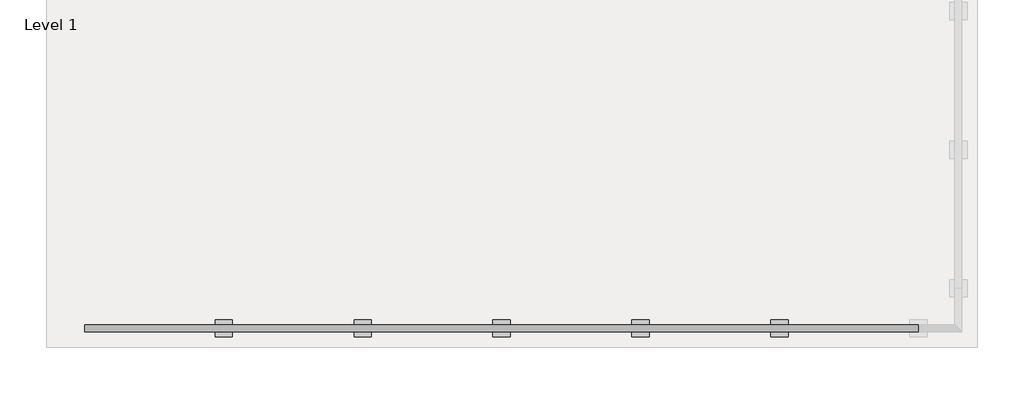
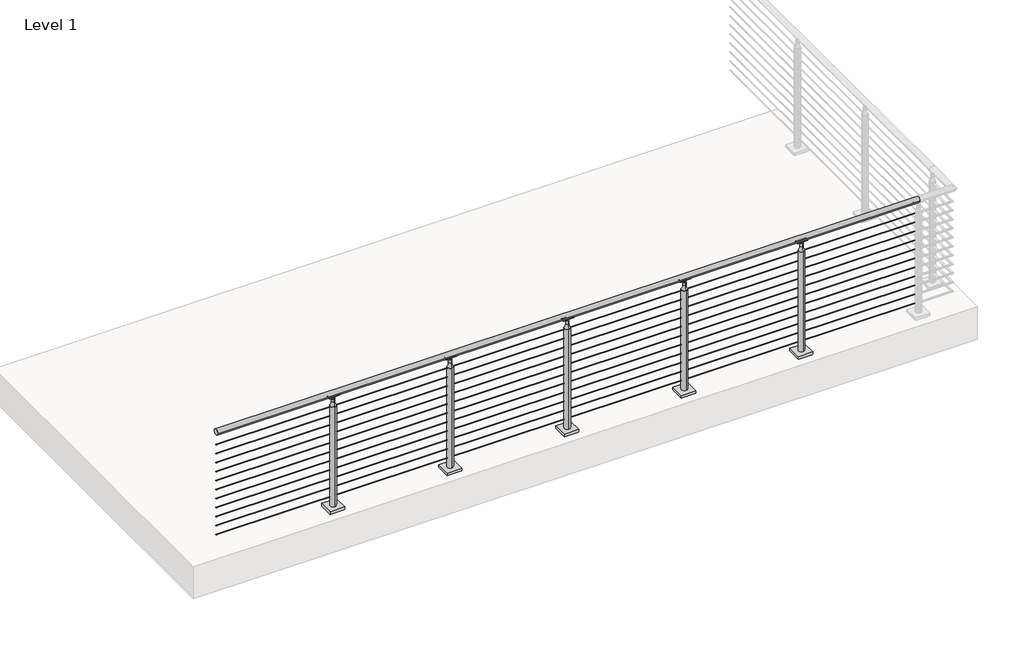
# One storey, part 10 of 21: 1 railing.
"""IFC4 building model written with IfcOpenShell, lengths in millimetres."""

from ifc_helpers import new_model, si_unit, point, frame, frame_2d, origin, origin_with_axes, place, context, project, spatial, polyline, circle_curve, ellipse_curve, trimmed, segment, composite_curve, outline, extrude, element, save
from ifc_brep_helpers import plane_surface, cylinder_surface, revolved_surface, advanced_brep

model = new_model("IFC4")

# Units and contexts
model_context = context("Model", 3, world=origin())
ifc_project = project(units=[si_unit("LENGTHUNIT", "METRE", prefix="MILLI")], contexts=[model_context])

# Site, building, storey
site = spatial("IfcSite", under=ifc_project)
building = spatial("IfcBuilding", under=site)
storey = spatial("IfcBuildingStorey", under=building, Name="Level 1", Elevation=0.0)

# Railing
placement = place(None, origin())
element("IfcRailing", 1, ObjectType="VIVA-CIRCA-Cable-Floor Mount-Straight", at=placement, inside=storey, context=model_context, shape_type="SolidModel", body=[
    extrude(outline(composite_curve([segment(trimmed(circle_curve(frame_2d((-57044.7334719, 1054.1)), 25.4), [point((-57070.1334719, 1054.1))], [point((-57019.3334719, 1054.1))], False, "CARTESIAN"), True, "CONTINUOUS"), segment(trimmed(circle_curve(frame_2d((-57044.7334719, 1054.1)), 25.4), [point((-57019.3334719, 1054.1))], [point((-57070.1334719, 1054.1))], False, "CARTESIAN"), True, "CONTINUOUS")], self_intersect=False)), frame((13215.7855247, 0.0, 0.0), z_axis=(1.0, 0.0, 0.0), x_axis=(0.0, 1.0, 0.0)), (0.0, 0.0, 1.0), 6096.0),
    extrude(outline(composite_curve([segment(trimmed(circle_curve(frame_2d((-57044.7334719, 937.4124)), 2.3876), [point((-57042.3458719, 937.4124))], [point((-57047.1210719, 937.4124))], False, "CARTESIAN"), True, "CONTINUOUS"), segment(trimmed(circle_curve(frame_2d((-57044.7334719, 937.4124)), 2.3876), [point((-57047.1210719, 937.4124))], [point((-57042.3458719, 937.4124))], False, "CARTESIAN"), True, "CONTINUOUS")], self_intersect=False)), frame((13215.7855247, 0.0, 0.0), z_axis=(1.0, 0.0, 0.0), x_axis=(0.0, 1.0, 0.0)), (0.0, 0.0, 1.0), 6096.0),
    extrude(outline(composite_curve([segment(trimmed(circle_curve(frame_2d((-57044.7334719, 854.8624)), 2.3876), [point((-57042.3458719, 854.8624))], [point((-57047.1210719, 854.8624))], False, "CARTESIAN"), True, "CONTINUOUS"), segment(trimmed(circle_curve(frame_2d((-57044.7334719, 854.8624)), 2.3876), [point((-57047.1210719, 854.8624))], [point((-57042.3458719, 854.8624))], False, "CARTESIAN"), True, "CONTINUOUS")], self_intersect=False)), frame((13215.7855247, 0.0, 0.0), z_axis=(1.0, 0.0, 0.0), x_axis=(0.0, 1.0, 0.0)), (0.0, 0.0, 1.0), 6096.0),
    extrude(outline(composite_curve([segment(trimmed(circle_curve(frame_2d((-57044.7334719, 772.3124)), 2.3876), [point((-57042.3458719, 772.3124))], [point((-57047.1210719, 772.3124))], False, "CARTESIAN"), True, "CONTINUOUS"), segment(trimmed(circle_curve(frame_2d((-57044.7334719, 772.3124)), 2.3876), [point((-57047.1210719, 772.3124))], [point((-57042.3458719, 772.3124))], False, "CARTESIAN"), True, "CONTINUOUS")], self_intersect=False)), frame((13215.7855247, 0.0, 0.0), z_axis=(1.0, 0.0, 0.0), x_axis=(0.0, 1.0, 0.0)), (0.0, 0.0, 1.0), 6096.0),
    extrude(outline(composite_curve([segment(trimmed(circle_curve(frame_2d((-57044.7334719, 689.7624)), 2.3876), [point((-57042.3458719, 689.7624))], [point((-57047.1210719, 689.7624))], False, "CARTESIAN"), True, "CONTINUOUS"), segment(trimmed(circle_curve(frame_2d((-57044.7334719, 689.7624)), 2.3876), [point((-57047.1210719, 689.7624))], [point((-57042.3458719, 689.7624))], False, "CARTESIAN"), True, "CONTINUOUS")], self_intersect=False)), frame((13215.7855247, 0.0, 0.0), z_axis=(1.0, 0.0, 0.0), x_axis=(0.0, 1.0, 0.0)), (0.0, 0.0, 1.0), 6096.0),
    extrude(outline(composite_curve([segment(trimmed(circle_curve(frame_2d((-57044.7334719, 607.2124)), 2.3876), [point((-57042.3458719, 607.2124))], [point((-57047.1210719, 607.2124))], False, "CARTESIAN"), True, "CONTINUOUS"), segment(trimmed(circle_curve(frame_2d((-57044.7334719, 607.2124)), 2.3876), [point((-57047.1210719, 607.2124))], [point((-57042.3458719, 607.2124))], False, "CARTESIAN"), True, "CONTINUOUS")], self_intersect=False)), frame((13215.7855247, 0.0, 0.0), z_axis=(1.0, 0.0, 0.0), x_axis=(0.0, 1.0, 0.0)), (0.0, 0.0, 1.0), 6096.0),
    extrude(outline(composite_curve([segment(trimmed(circle_curve(frame_2d((-57044.7334719, 524.6624)), 2.3876), [point((-57042.3458719, 524.6624))], [point((-57047.1210719, 524.6624))], False, "CARTESIAN"), True, "CONTINUOUS"), segment(trimmed(circle_curve(frame_2d((-57044.7334719, 524.6624)), 2.3876), [point((-57047.1210719, 524.6624))], [point((-57042.3458719, 524.6624))], False, "CARTESIAN"), True, "CONTINUOUS")], self_intersect=False)), frame((13215.7855247, 0.0, 0.0), z_axis=(1.0, 0.0, 0.0), x_axis=(0.0, 1.0, 0.0)), (0.0, 0.0, 1.0), 6096.0),
    extrude(outline(composite_curve([segment(trimmed(circle_curve(frame_2d((-57044.7334719, 442.1124)), 2.3876), [point((-57042.3458719, 442.1124))], [point((-57047.1210719, 442.1124))], False, "CARTESIAN"), True, "CONTINUOUS"), segment(trimmed(circle_curve(frame_2d((-57044.7334719, 442.1124)), 2.3876), [point((-57047.1210719, 442.1124))], [point((-57042.3458719, 442.1124))], False, "CARTESIAN"), True, "CONTINUOUS")], self_intersect=False)), frame((13215.7855247, 0.0, 0.0), z_axis=(1.0, 0.0, 0.0), x_axis=(0.0, 1.0, 0.0)), (0.0, 0.0, 1.0), 6096.0),
    extrude(outline(composite_curve([segment(trimmed(circle_curve(frame_2d((-57044.7334719, 359.5624)), 2.3876), [point((-57042.3458719, 359.5624))], [point((-57047.1210719, 359.5624))], False, "CARTESIAN"), True, "CONTINUOUS"), segment(trimmed(circle_curve(frame_2d((-57044.7334719, 359.5624)), 2.3876), [point((-57047.1210719, 359.5624))], [point((-57042.3458719, 359.5624))], False, "CARTESIAN"), True, "CONTINUOUS")], self_intersect=False)), frame((13215.7855247, 0.0, 0.0), z_axis=(1.0, 0.0, 0.0), x_axis=(0.0, 1.0, 0.0)), (0.0, 0.0, 1.0), 6096.0),
    extrude(outline(composite_curve([segment(trimmed(circle_curve(frame_2d((-57044.7334719, 277.0124)), 2.3876), [point((-57042.3458719, 277.0124))], [point((-57047.1210719, 277.0124))], False, "CARTESIAN"), True, "CONTINUOUS"), segment(trimmed(circle_curve(frame_2d((-57044.7334719, 277.0124)), 2.3876), [point((-57047.1210719, 277.0124))], [point((-57042.3458719, 277.0124))], False, "CARTESIAN"), True, "CONTINUOUS")], self_intersect=False)), frame((13215.7855247, 0.0, 0.0), z_axis=(1.0, 0.0, 0.0), x_axis=(0.0, 1.0, 0.0)), (0.0, 0.0, 1.0), 6096.0),
    extrude(outline(composite_curve([segment(trimmed(circle_curve(frame_2d((-57044.7334719, 194.4624)), 2.3876), [point((-57042.3458719, 194.4624))], [point((-57047.1210719, 194.4624))], False, "CARTESIAN"), True, "CONTINUOUS"), segment(trimmed(circle_curve(frame_2d((-57044.7334719, 194.4624)), 2.3876), [point((-57047.1210719, 194.4624))], [point((-57042.3458719, 194.4624))], False, "CARTESIAN"), True, "CONTINUOUS")], self_intersect=False)), frame((13215.7855247, 0.0, 0.0), z_axis=(1.0, 0.0, 0.0), x_axis=(0.0, 1.0, 0.0)), (0.0, 0.0, 1.0), 6096.0),
    extrude(outline(composite_curve([segment(trimmed(circle_curve(frame_2d((-57044.7334719, 111.9124)), 2.3876), [point((-57042.3458719, 111.9124))], [point((-57047.1210719, 111.9124))], False, "CARTESIAN"), True, "CONTINUOUS"), segment(trimmed(circle_curve(frame_2d((-57044.7334719, 111.9124)), 2.3876), [point((-57047.1210719, 111.9124))], [point((-57042.3458719, 111.9124))], False, "CARTESIAN"), True, "CONTINUOUS")], self_intersect=False)), frame((13215.7855247, 0.0, 0.0), z_axis=(1.0, 0.0, 0.0), x_axis=(0.0, 1.0, 0.0)), (0.0, 0.0, 1.0), 6096.0),
    extrude(outline(composite_curve([segment(trimmed(circle_curve(frame_2d((-57044.6367435, 1055.4254922)), 25.4345159), [point((-57057.2005464, 1033.3106679))], [point((-57032.2415097, 1033.2157471))], True, "CARTESIAN"), True, "CONTINUOUS"), segment(trimmed(circle_curve(frame_2d((-57030.9968566, 1030.7132623)), 2.7949225), [point((-57032.2415097, 1033.2157471))], [point((-57029.5195515, 1028.3406769))], False, "CARTESIAN"), True, "CONTINUOUS"), segment(trimmed(circle_curve(frame_2d((-57044.7702066, 1056.1881188)), 31.75), [point((-57029.5195515, 1028.3406769))], [point((-57061.0364438, 1028.9214354))], False, "CARTESIAN"), True, "CONTINUOUS"), segment(trimmed(circle_curve(frame_2d((-57058.748104, 1030.7923545)), 2.9558141), [point((-57061.0364438, 1028.9214354))], [point((-57057.2005464, 1033.3106679))], False, "CARTESIAN"), True, "CONTINUOUS")], self_intersect=False)), frame((18250.9449997, 0.0, 0.0), z_axis=(1.0, 0.0, 0.0), x_axis=(0.0, 1.0, 0.0)), (0.0, 0.0, 1.0), 90.4748),
    extrude(outline(composite_curve([segment(polyline([(1024.6506908, 18323.2503146), (1024.6506908, 18269.1144848)]), True, "CONTINUOUS"), segment(trimmed(circle_curve(frame_2d((1010.282776, 18269.1144848)), 14.3679149), [point((1024.6506908, 18269.1144848))], [point((1010.282776, 18283.4823997))], True, "CARTESIAN"), True, "CONTINUOUS"), segment(trimmed(circle_curve(frame_2d((1010.282776, 18296.1823997)), 12.7), [point((1010.282776, 18283.4823997))], [point((1010.282776, 18308.8823997))], False, "CARTESIAN"), True, "CONTINUOUS"), segment(trimmed(circle_curve(frame_2d((1010.282776, 18323.2503146)), 14.3679149), [point((1010.282776, 18308.8823997))], [point((1024.6506908, 18323.2503146))], True, "CARTESIAN"), True, "CONTINUOUS")], self_intersect=False)), frame((0.0, -57047.2734719, 0.0), z_axis=(0.0, 1.0, 0.0), x_axis=(0.0, 0.0, 1.0)), (0.0, 0.0, 1.0), 5.08),
    extrude(outline(polyline([(18232.6823997, -57108.2334719), (18232.6823997, -56981.2334719), (18359.6823997, -56981.2334719), (18359.6823997, -57108.2334719), (18232.6823997, -57108.2334719)])), origin_with_axes(), (0.0, 0.0, 1.0), 25.4),
    advanced_brep(
    [(18296.1823997, -57070.1328697, 941.1347854), (18296.1823997, -57019.3340741, 941.1347854), (18296.1823997, -57019.3340741, 25.4), (18296.1823997, -57070.1328697, 25.4), (18296.1823997, -57057.4714404, 979.3486202), (18296.1823997, -57031.9955033, 979.3486202), (18296.1823997, -57057.4714404, 1008.5779599), (18296.1823997, -57031.9955033, 1008.5779599), (18296.1823997, -57044.7334719, 1015.238668), (18296.1823997, -57044.7334719, 25.4)],
    [
        (0, 1, circle_curve(frame((18296.1823997, -57044.7334719, 941.1347854), z_axis=(0.0, 0.0, -1.0), x_axis=(0.0, 1.0, 0.0)), 25.3993978)),
        (1, 2),
        (2, 3, circle_curve(frame((18296.1823997, -57044.7334719, 25.4), z_axis=(0.0, 0.0, 1.0), x_axis=(0.0, 1.0, 0.0)), 25.3993978)),
        (3, 0),
        (1, 0, circle_curve(frame((18296.1823997, -57044.7334719, 941.1347854), z_axis=(0.0, 0.0, -1.0), x_axis=(0.0, 1.0, 0.0)), 25.3993978)),
        (3, 2, circle_curve(frame((18296.1823997, -57044.7334719, 25.4), z_axis=(0.0, 0.0, 1.0), x_axis=(0.0, 1.0, 0.0)), 25.3993978)),
        (4, 5, circle_curve(frame((18296.1823997, -57044.7334719, 979.3486202), z_axis=(0.0, 0.0, -1.0), x_axis=(0.0, 1.0, 0.0)), 12.7379685)),
        (5, 1, circle_curve(frame((18296.1823997, -56967.997635, 979.3486202), z_axis=(1.0, 0.0, 0.0), x_axis=(0.0, 1.0, 0.0)), 63.9978683)),
        (0, 4, circle_curve(frame((18296.1823997, -57121.4693087, 979.3486202), z_axis=(1.0, 0.0, 0.0), x_axis=(0.0, -1.0, 0.0)), 63.9978683)),
        (5, 4, circle_curve(frame((18296.1823997, -57044.7334719, 979.3486202), z_axis=(0.0, 0.0, -1.0), x_axis=(0.0, 1.0, 0.0)), 12.7379685)),
        (6, 7, circle_curve(frame((18296.1823997, -57044.7334719, 1008.5779599), z_axis=(0.0, 0.0, -1.0), x_axis=(0.0, 1.0, 0.0)), 12.7379685)),
        (7, 5),
        (4, 6),
        (7, 6, circle_curve(frame((18296.1823997, -57044.7334719, 1008.5779599), z_axis=(0.0, 0.0, -1.0), x_axis=(0.0, 1.0, 0.0)), 12.7379685)),
        (8, 7, circle_curve(frame((18296.1823997, -57044.7334719, 999.7282394), z_axis=(-1.0, 0.0, 0.0), x_axis=(0.0, 1.0, 0.0)), 15.5104286)),
        (6, 8, circle_curve(frame((18296.1823997, -57044.7334719, 999.7282394), z_axis=(-1.0, 0.0, 0.0), x_axis=(0.0, -1.0, 0.0)), 15.5104286)),
        (2, 9),
        (9, 3),
    ],
    [
        cylinder_surface(frame((18296.1823997, -57044.7334719, 1104.9), z_axis=(0.0, 0.0, 1.0), x_axis=(0.0, 1.0, 0.0)), 25.3993978),
        revolved_surface(trimmed(ellipse_curve(frame((18296.1823997, -56967.997635, 979.3486202), z_axis=(-1.0, 0.0, 0.0), x_axis=(0.0, 1.0, 0.0)), 63.9978683, 63.9978683), [point((18296.1823997, -57019.3340741, 941.1347854))], [point((18296.1823997, -57031.9955033, 979.3486202))], True, "CARTESIAN"), (18296.1823997, -57044.7334719, 1104.9), (0.0, 0.0, 1.0)),
        cylinder_surface(frame((18296.1823997, -57044.7334719, 1104.9), z_axis=(0.0, 0.0, 1.0), x_axis=(0.0, 1.0, 0.0)), 12.7379685),
        revolved_surface(trimmed(ellipse_curve(frame((18296.1823997, -57044.7334719, 999.7282394), z_axis=(1.0, 0.0, 0.0), x_axis=(0.0, 1.0, 0.0)), 15.5104286, 15.5104286), [point((18296.1823997, -57031.9955033, 1008.5779599))], [point((18296.1823997, -57044.7334719, 1015.238668))], True, "CARTESIAN"), (18296.1823997, -57044.7334719, 1104.9), (0.0, 0.0, 1.0)),
        plane_surface(frame((18296.1823997, -57044.7334719, 25.4), z_axis=(0.0, 0.0, -1.0), x_axis=(0.0, 1.0, 0.0))),
    ],
    [
        (0, [[1, 2, 3, 4]]),
        (0, [[5, -4, 6, -2]]),
        (1, [[7, 8, -1, 9]]),
        (1, [[10, -9, -5, -8]]),
        (2, [[11, 12, -7, 13]]),
        (2, [[14, -13, -10, -12]]),
        (3, [[15, -11, 16]]),
        (3, [[-16, -14, -15]]),
        (4, [[-3, 17, 18]]),
        (4, [[-6, -18, -17]]),
    ],
),
    extrude(outline(composite_curve([segment(trimmed(circle_curve(frame_2d((-57044.6367435, 1055.4254922)), 25.4345159), [point((-57057.2005464, 1033.3106679))], [point((-57032.2415097, 1033.2157471))], True, "CARTESIAN"), True, "CONTINUOUS"), segment(trimmed(circle_curve(frame_2d((-57030.9968566, 1030.7132623)), 2.7949225), [point((-57032.2415097, 1033.2157471))], [point((-57029.5195515, 1028.3406769))], False, "CARTESIAN"), True, "CONTINUOUS"), segment(trimmed(circle_curve(frame_2d((-57044.7702066, 1056.1881188)), 31.75), [point((-57029.5195515, 1028.3406769))], [point((-57061.0364438, 1028.9214354))], False, "CARTESIAN"), True, "CONTINUOUS"), segment(trimmed(circle_curve(frame_2d((-57058.748104, 1030.7923545)), 2.9558141), [point((-57061.0364438, 1028.9214354))], [point((-57057.2005464, 1033.3106679))], False, "CARTESIAN"), True, "CONTINUOUS")], self_intersect=False)), frame((17234.9449997, 0.0, 0.0), z_axis=(1.0, 0.0, 0.0), x_axis=(0.0, 1.0, 0.0)), (0.0, 0.0, 1.0), 90.4748),
    extrude(outline(composite_curve([segment(polyline([(1024.6506908, 17307.2503146), (1024.6506908, 17253.1144848)]), True, "CONTINUOUS"), segment(trimmed(circle_curve(frame_2d((1010.282776, 17253.1144848)), 14.3679149), [point((1024.6506908, 17253.1144848))], [point((1010.282776, 17267.4823997))], True, "CARTESIAN"), True, "CONTINUOUS"), segment(trimmed(circle_curve(frame_2d((1010.282776, 17280.1823997)), 12.7), [point((1010.282776, 17267.4823997))], [point((1010.282776, 17292.8823997))], False, "CARTESIAN"), True, "CONTINUOUS"), segment(trimmed(circle_curve(frame_2d((1010.282776, 17307.2503146)), 14.3679149), [point((1010.282776, 17292.8823997))], [point((1024.6506908, 17307.2503146))], True, "CARTESIAN"), True, "CONTINUOUS")], self_intersect=False)), frame((0.0, -57047.2734719, 0.0), z_axis=(0.0, 1.0, 0.0), x_axis=(0.0, 0.0, 1.0)), (0.0, 0.0, 1.0), 5.08),
    extrude(outline(polyline([(17216.6823997, -57108.2334719), (17216.6823997, -56981.2334719), (17343.6823997, -56981.2334719), (17343.6823997, -57108.2334719), (17216.6823997, -57108.2334719)])), origin_with_axes(), (0.0, 0.0, 1.0), 25.4),
    advanced_brep(
    [(17280.1823997, -57070.1328697, 941.1347854), (17280.1823997, -57019.3340741, 941.1347854), (17280.1823997, -57019.3340741, 25.4), (17280.1823997, -57070.1328697, 25.4), (17280.1823997, -57057.4714404, 979.3486202), (17280.1823997, -57031.9955033, 979.3486202), (17280.1823997, -57057.4714404, 1008.5779599), (17280.1823997, -57031.9955033, 1008.5779599), (17280.1823997, -57044.7334719, 1015.238668), (17280.1823997, -57044.7334719, 25.4)],
    [
        (0, 1, circle_curve(frame((17280.1823997, -57044.7334719, 941.1347854), z_axis=(0.0, 0.0, -1.0), x_axis=(0.0, 1.0, 0.0)), 25.3993978)),
        (1, 2),
        (2, 3, circle_curve(frame((17280.1823997, -57044.7334719, 25.4), z_axis=(0.0, 0.0, 1.0), x_axis=(0.0, 1.0, 0.0)), 25.3993978)),
        (3, 0),
        (1, 0, circle_curve(frame((17280.1823997, -57044.7334719, 941.1347854), z_axis=(0.0, 0.0, -1.0), x_axis=(0.0, 1.0, 0.0)), 25.3993978)),
        (3, 2, circle_curve(frame((17280.1823997, -57044.7334719, 25.4), z_axis=(0.0, 0.0, 1.0), x_axis=(0.0, 1.0, 0.0)), 25.3993978)),
        (4, 5, circle_curve(frame((17280.1823997, -57044.7334719, 979.3486202), z_axis=(0.0, 0.0, -1.0), x_axis=(0.0, 1.0, 0.0)), 12.7379685)),
        (5, 1, circle_curve(frame((17280.1823997, -56967.997635, 979.3486202), z_axis=(1.0, 0.0, 0.0), x_axis=(0.0, 1.0, 0.0)), 63.9978683)),
        (0, 4, circle_curve(frame((17280.1823997, -57121.4693087, 979.3486202), z_axis=(1.0, 0.0, 0.0), x_axis=(0.0, -1.0, 0.0)), 63.9978683)),
        (5, 4, circle_curve(frame((17280.1823997, -57044.7334719, 979.3486202), z_axis=(0.0, 0.0, -1.0), x_axis=(0.0, 1.0, 0.0)), 12.7379685)),
        (6, 7, circle_curve(frame((17280.1823997, -57044.7334719, 1008.5779599), z_axis=(0.0, 0.0, -1.0), x_axis=(0.0, 1.0, 0.0)), 12.7379685)),
        (7, 5),
        (4, 6),
        (7, 6, circle_curve(frame((17280.1823997, -57044.7334719, 1008.5779599), z_axis=(0.0, 0.0, -1.0), x_axis=(0.0, 1.0, 0.0)), 12.7379685)),
        (8, 7, circle_curve(frame((17280.1823997, -57044.7334719, 999.7282394), z_axis=(-1.0, 0.0, 0.0), x_axis=(0.0, 1.0, 0.0)), 15.5104286)),
        (6, 8, circle_curve(frame((17280.1823997, -57044.7334719, 999.7282394), z_axis=(-1.0, 0.0, 0.0), x_axis=(0.0, -1.0, 0.0)), 15.5104286)),
        (2, 9),
        (9, 3),
    ],
    [
        cylinder_surface(frame((17280.1823997, -57044.7334719, 1104.9), z_axis=(0.0, 0.0, 1.0), x_axis=(0.0, 1.0, 0.0)), 25.3993978),
        revolved_surface(trimmed(ellipse_curve(frame((17280.1823997, -56967.997635, 979.3486202), z_axis=(-1.0, 0.0, 0.0), x_axis=(0.0, 1.0, 0.0)), 63.9978683, 63.9978683), [point((17280.1823997, -57019.3340741, 941.1347854))], [point((17280.1823997, -57031.9955033, 979.3486202))], True, "CARTESIAN"), (17280.1823997, -57044.7334719, 1104.9), (0.0, 0.0, 1.0)),
        cylinder_surface(frame((17280.1823997, -57044.7334719, 1104.9), z_axis=(0.0, 0.0, 1.0), x_axis=(0.0, 1.0, 0.0)), 12.7379685),
        revolved_surface(trimmed(ellipse_curve(frame((17280.1823997, -57044.7334719, 999.7282394), z_axis=(1.0, 0.0, 0.0), x_axis=(0.0, 1.0, 0.0)), 15.5104286, 15.5104286), [point((17280.1823997, -57031.9955033, 1008.5779599))], [point((17280.1823997, -57044.7334719, 1015.238668))], True, "CARTESIAN"), (17280.1823997, -57044.7334719, 1104.9), (0.0, 0.0, 1.0)),
        plane_surface(frame((17280.1823997, -57044.7334719, 25.4), z_axis=(0.0, 0.0, -1.0), x_axis=(0.0, 1.0, 0.0))),
    ],
    [
        (0, [[1, 2, 3, 4]]),
        (0, [[5, -4, 6, -2]]),
        (1, [[7, 8, -1, 9]]),
        (1, [[10, -9, -5, -8]]),
        (2, [[11, 12, -7, 13]]),
        (2, [[14, -13, -10, -12]]),
        (3, [[15, -11, 16]]),
        (3, [[-16, -14, -15]]),
        (4, [[-3, 17, 18]]),
        (4, [[-6, -18, -17]]),
    ],
),
    extrude(outline(composite_curve([segment(trimmed(circle_curve(frame_2d((-57044.6367435, 1055.4254922)), 25.4345159), [point((-57057.2005464, 1033.3106679))], [point((-57032.2415097, 1033.2157471))], True, "CARTESIAN"), True, "CONTINUOUS"), segment(trimmed(circle_curve(frame_2d((-57030.9968566, 1030.7132623)), 2.7949225), [point((-57032.2415097, 1033.2157471))], [point((-57029.5195515, 1028.3406769))], False, "CARTESIAN"), True, "CONTINUOUS"), segment(trimmed(circle_curve(frame_2d((-57044.7702066, 1056.1881188)), 31.75), [point((-57029.5195515, 1028.3406769))], [point((-57061.0364438, 1028.9214354))], False, "CARTESIAN"), True, "CONTINUOUS"), segment(trimmed(circle_curve(frame_2d((-57058.748104, 1030.7923545)), 2.9558141), [point((-57061.0364438, 1028.9214354))], [point((-57057.2005464, 1033.3106679))], False, "CARTESIAN"), True, "CONTINUOUS")], self_intersect=False)), frame((16218.9449997, 0.0, 0.0), z_axis=(1.0, 0.0, 0.0), x_axis=(0.0, 1.0, 0.0)), (0.0, 0.0, 1.0), 90.4748),
    extrude(outline(composite_curve([segment(polyline([(1024.6506908, 16291.2503146), (1024.6506908, 16237.1144848)]), True, "CONTINUOUS"), segment(trimmed(circle_curve(frame_2d((1010.282776, 16237.1144848)), 14.3679149), [point((1024.6506908, 16237.1144848))], [point((1010.282776, 16251.4823997))], True, "CARTESIAN"), True, "CONTINUOUS"), segment(trimmed(circle_curve(frame_2d((1010.282776, 16264.1823997)), 12.7), [point((1010.282776, 16251.4823997))], [point((1010.282776, 16276.8823997))], False, "CARTESIAN"), True, "CONTINUOUS"), segment(trimmed(circle_curve(frame_2d((1010.282776, 16291.2503146)), 14.3679149), [point((1010.282776, 16276.8823997))], [point((1024.6506908, 16291.2503146))], True, "CARTESIAN"), True, "CONTINUOUS")], self_intersect=False)), frame((0.0, -57047.2734719, 0.0), z_axis=(0.0, 1.0, 0.0), x_axis=(0.0, 0.0, 1.0)), (0.0, 0.0, 1.0), 5.08),
    extrude(outline(polyline([(16200.6823997, -57108.2334719), (16200.6823997, -56981.2334719), (16327.6823997, -56981.2334719), (16327.6823997, -57108.2334719), (16200.6823997, -57108.2334719)])), origin_with_axes(), (0.0, 0.0, 1.0), 25.4),
    advanced_brep(
    [(16264.1823997, -57070.1328697, 941.1347854), (16264.1823997, -57019.3340741, 941.1347854), (16264.1823997, -57019.3340741, 25.4), (16264.1823997, -57070.1328697, 25.4), (16264.1823997, -57057.4714404, 979.3486202), (16264.1823997, -57031.9955033, 979.3486202), (16264.1823997, -57057.4714404, 1008.5779599), (16264.1823997, -57031.9955033, 1008.5779599), (16264.1823997, -57044.7334719, 1015.238668), (16264.1823997, -57044.7334719, 25.4)],
    [
        (0, 1, circle_curve(frame((16264.1823997, -57044.7334719, 941.1347854), z_axis=(0.0, 0.0, -1.0), x_axis=(0.0, 1.0, 0.0)), 25.3993978)),
        (1, 2),
        (2, 3, circle_curve(frame((16264.1823997, -57044.7334719, 25.4), z_axis=(0.0, 0.0, 1.0), x_axis=(0.0, 1.0, 0.0)), 25.3993978)),
        (3, 0),
        (1, 0, circle_curve(frame((16264.1823997, -57044.7334719, 941.1347854), z_axis=(0.0, 0.0, -1.0), x_axis=(0.0, 1.0, 0.0)), 25.3993978)),
        (3, 2, circle_curve(frame((16264.1823997, -57044.7334719, 25.4), z_axis=(0.0, 0.0, 1.0), x_axis=(0.0, 1.0, 0.0)), 25.3993978)),
        (4, 5, circle_curve(frame((16264.1823997, -57044.7334719, 979.3486202), z_axis=(0.0, 0.0, -1.0), x_axis=(0.0, 1.0, 0.0)), 12.7379685)),
        (5, 1, circle_curve(frame((16264.1823997, -56967.997635, 979.3486202), z_axis=(1.0, 0.0, 0.0), x_axis=(0.0, 1.0, 0.0)), 63.9978683)),
        (0, 4, circle_curve(frame((16264.1823997, -57121.4693087, 979.3486202), z_axis=(1.0, 0.0, 0.0), x_axis=(0.0, -1.0, 0.0)), 63.9978683)),
        (5, 4, circle_curve(frame((16264.1823997, -57044.7334719, 979.3486202), z_axis=(0.0, 0.0, -1.0), x_axis=(0.0, 1.0, 0.0)), 12.7379685)),
        (6, 7, circle_curve(frame((16264.1823997, -57044.7334719, 1008.5779599), z_axis=(0.0, 0.0, -1.0), x_axis=(0.0, 1.0, 0.0)), 12.7379685)),
        (7, 5),
        (4, 6),
        (7, 6, circle_curve(frame((16264.1823997, -57044.7334719, 1008.5779599), z_axis=(0.0, 0.0, -1.0), x_axis=(0.0, 1.0, 0.0)), 12.7379685)),
        (8, 7, circle_curve(frame((16264.1823997, -57044.7334719, 999.7282394), z_axis=(-1.0, 0.0, 0.0), x_axis=(0.0, 1.0, 0.0)), 15.5104286)),
        (6, 8, circle_curve(frame((16264.1823997, -57044.7334719, 999.7282394), z_axis=(-1.0, 0.0, 0.0), x_axis=(0.0, -1.0, 0.0)), 15.5104286)),
        (2, 9),
        (9, 3),
    ],
    [
        cylinder_surface(frame((16264.1823997, -57044.7334719, 1104.9), z_axis=(0.0, 0.0, 1.0), x_axis=(0.0, 1.0, 0.0)), 25.3993978),
        revolved_surface(trimmed(ellipse_curve(frame((16264.1823997, -56967.997635, 979.3486202), z_axis=(-1.0, 0.0, 0.0), x_axis=(0.0, 1.0, 0.0)), 63.9978683, 63.9978683), [point((16264.1823997, -57019.3340741, 941.1347854))], [point((16264.1823997, -57031.9955033, 979.3486202))], True, "CARTESIAN"), (16264.1823997, -57044.7334719, 1104.9), (0.0, 0.0, 1.0)),
        cylinder_surface(frame((16264.1823997, -57044.7334719, 1104.9), z_axis=(0.0, 0.0, 1.0), x_axis=(0.0, 1.0, 0.0)), 12.7379685),
        revolved_surface(trimmed(ellipse_curve(frame((16264.1823997, -57044.7334719, 999.7282394), z_axis=(1.0, 0.0, 0.0), x_axis=(0.0, 1.0, 0.0)), 15.5104286, 15.5104286), [point((16264.1823997, -57031.9955033, 1008.5779599))], [point((16264.1823997, -57044.7334719, 1015.238668))], True, "CARTESIAN"), (16264.1823997, -57044.7334719, 1104.9), (0.0, 0.0, 1.0)),
        plane_surface(frame((16264.1823997, -57044.7334719, 25.4), z_axis=(0.0, 0.0, -1.0), x_axis=(0.0, 1.0, 0.0))),
    ],
    [
        (0, [[1, 2, 3, 4]]),
        (0, [[5, -4, 6, -2]]),
        (1, [[7, 8, -1, 9]]),
        (1, [[10, -9, -5, -8]]),
        (2, [[11, 12, -7, 13]]),
        (2, [[14, -13, -10, -12]]),
        (3, [[15, -11, 16]]),
        (3, [[-16, -14, -15]]),
        (4, [[-3, 17, 18]]),
        (4, [[-6, -18, -17]]),
    ],
),
    extrude(outline(composite_curve([segment(trimmed(circle_curve(frame_2d((-57044.6367435, 1055.4254922)), 25.4345159), [point((-57057.2005464, 1033.3106679))], [point((-57032.2415097, 1033.2157471))], True, "CARTESIAN"), True, "CONTINUOUS"), segment(trimmed(circle_curve(frame_2d((-57030.9968566, 1030.7132623)), 2.7949225), [point((-57032.2415097, 1033.2157471))], [point((-57029.5195515, 1028.3406769))], False, "CARTESIAN"), True, "CONTINUOUS"), segment(trimmed(circle_curve(frame_2d((-57044.7702066, 1056.1881188)), 31.75), [point((-57029.5195515, 1028.3406769))], [point((-57061.0364438, 1028.9214354))], False, "CARTESIAN"), True, "CONTINUOUS"), segment(trimmed(circle_curve(frame_2d((-57058.748104, 1030.7923545)), 2.9558141), [point((-57061.0364438, 1028.9214354))], [point((-57057.2005464, 1033.3106679))], False, "CARTESIAN"), True, "CONTINUOUS")], self_intersect=False)), frame((15202.9449997, 0.0, 0.0), z_axis=(1.0, 0.0, 0.0), x_axis=(0.0, 1.0, 0.0)), (0.0, 0.0, 1.0), 90.4748),
    extrude(outline(composite_curve([segment(polyline([(1024.6506908, 15275.2503146), (1024.6506908, 15221.1144848)]), True, "CONTINUOUS"), segment(trimmed(circle_curve(frame_2d((1010.282776, 15221.1144848)), 14.3679149), [point((1024.6506908, 15221.1144848))], [point((1010.282776, 15235.4823997))], True, "CARTESIAN"), True, "CONTINUOUS"), segment(trimmed(circle_curve(frame_2d((1010.282776, 15248.1823997)), 12.7), [point((1010.282776, 15235.4823997))], [point((1010.282776, 15260.8823997))], False, "CARTESIAN"), True, "CONTINUOUS"), segment(trimmed(circle_curve(frame_2d((1010.282776, 15275.2503146)), 14.3679149), [point((1010.282776, 15260.8823997))], [point((1024.6506908, 15275.2503146))], True, "CARTESIAN"), True, "CONTINUOUS")], self_intersect=False)), frame((0.0, -57047.2734719, 0.0), z_axis=(0.0, 1.0, 0.0), x_axis=(0.0, 0.0, 1.0)), (0.0, 0.0, 1.0), 5.08),
    extrude(outline(polyline([(15184.6823997, -57108.2334719), (15184.6823997, -56981.2334719), (15311.6823997, -56981.2334719), (15311.6823997, -57108.2334719), (15184.6823997, -57108.2334719)])), origin_with_axes(), (0.0, 0.0, 1.0), 25.4),
    advanced_brep(
    [(15248.1823997, -57070.1328697, 941.1347854), (15248.1823997, -57019.3340741, 941.1347854), (15248.1823997, -57019.3340741, 25.4), (15248.1823997, -57070.1328697, 25.4), (15248.1823997, -57057.4714404, 979.3486202), (15248.1823997, -57031.9955033, 979.3486202), (15248.1823997, -57057.4714404, 1008.5779599), (15248.1823997, -57031.9955033, 1008.5779599), (15248.1823997, -57044.7334719, 1015.238668), (15248.1823997, -57044.7334719, 25.4)],
    [
        (0, 1, circle_curve(frame((15248.1823997, -57044.7334719, 941.1347854), z_axis=(0.0, 0.0, -1.0), x_axis=(0.0, 1.0, 0.0)), 25.3993978)),
        (1, 2),
        (2, 3, circle_curve(frame((15248.1823997, -57044.7334719, 25.4), z_axis=(0.0, 0.0, 1.0), x_axis=(0.0, 1.0, 0.0)), 25.3993978)),
        (3, 0),
        (1, 0, circle_curve(frame((15248.1823997, -57044.7334719, 941.1347854), z_axis=(0.0, 0.0, -1.0), x_axis=(0.0, 1.0, 0.0)), 25.3993978)),
        (3, 2, circle_curve(frame((15248.1823997, -57044.7334719, 25.4), z_axis=(0.0, 0.0, 1.0), x_axis=(0.0, 1.0, 0.0)), 25.3993978)),
        (4, 5, circle_curve(frame((15248.1823997, -57044.7334719, 979.3486202), z_axis=(0.0, 0.0, -1.0), x_axis=(0.0, 1.0, 0.0)), 12.7379685)),
        (5, 1, circle_curve(frame((15248.1823997, -56967.997635, 979.3486202), z_axis=(1.0, 0.0, 0.0), x_axis=(0.0, 1.0, 0.0)), 63.9978683)),
        (0, 4, circle_curve(frame((15248.1823997, -57121.4693087, 979.3486202), z_axis=(1.0, 0.0, 0.0), x_axis=(0.0, -1.0, 0.0)), 63.9978683)),
        (5, 4, circle_curve(frame((15248.1823997, -57044.7334719, 979.3486202), z_axis=(0.0, 0.0, -1.0), x_axis=(0.0, 1.0, 0.0)), 12.7379685)),
        (6, 7, circle_curve(frame((15248.1823997, -57044.7334719, 1008.5779599), z_axis=(0.0, 0.0, -1.0), x_axis=(0.0, 1.0, 0.0)), 12.7379685)),
        (7, 5),
        (4, 6),
        (7, 6, circle_curve(frame((15248.1823997, -57044.7334719, 1008.5779599), z_axis=(0.0, 0.0, -1.0), x_axis=(0.0, 1.0, 0.0)), 12.7379685)),
        (8, 7, circle_curve(frame((15248.1823997, -57044.7334719, 999.7282394), z_axis=(-1.0, 0.0, 0.0), x_axis=(0.0, 1.0, 0.0)), 15.5104286)),
        (6, 8, circle_curve(frame((15248.1823997, -57044.7334719, 999.7282394), z_axis=(-1.0, 0.0, 0.0), x_axis=(0.0, -1.0, 0.0)), 15.5104286)),
        (2, 9),
        (9, 3),
    ],
    [
        cylinder_surface(frame((15248.1823997, -57044.7334719, 1104.9), z_axis=(0.0, 0.0, 1.0), x_axis=(0.0, 1.0, 0.0)), 25.3993978),
        revolved_surface(trimmed(ellipse_curve(frame((15248.1823997, -56967.997635, 979.3486202), z_axis=(-1.0, 0.0, 0.0), x_axis=(0.0, 1.0, 0.0)), 63.9978683, 63.9978683), [point((15248.1823997, -57019.3340741, 941.1347854))], [point((15248.1823997, -57031.9955033, 979.3486202))], True, "CARTESIAN"), (15248.1823997, -57044.7334719, 1104.9), (0.0, 0.0, 1.0)),
        cylinder_surface(frame((15248.1823997, -57044.7334719, 1104.9), z_axis=(0.0, 0.0, 1.0), x_axis=(0.0, 1.0, 0.0)), 12.7379685),
        revolved_surface(trimmed(ellipse_curve(frame((15248.1823997, -57044.7334719, 999.7282394), z_axis=(1.0, 0.0, 0.0), x_axis=(0.0, 1.0, 0.0)), 15.5104286, 15.5104286), [point((15248.1823997, -57031.9955033, 1008.5779599))], [point((15248.1823997, -57044.7334719, 1015.238668))], True, "CARTESIAN"), (15248.1823997, -57044.7334719, 1104.9), (0.0, 0.0, 1.0)),
        plane_surface(frame((15248.1823997, -57044.7334719, 25.4), z_axis=(0.0, 0.0, -1.0), x_axis=(0.0, 1.0, 0.0))),
    ],
    [
        (0, [[1, 2, 3, 4]]),
        (0, [[5, -4, 6, -2]]),
        (1, [[7, 8, -1, 9]]),
        (1, [[10, -9, -5, -8]]),
        (2, [[11, 12, -7, 13]]),
        (2, [[14, -13, -10, -12]]),
        (3, [[15, -11, 16]]),
        (3, [[-16, -14, -15]]),
        (4, [[-3, 17, 18]]),
        (4, [[-6, -18, -17]]),
    ],
),
    extrude(outline(composite_curve([segment(trimmed(circle_curve(frame_2d((-57044.6367435, 1055.4254922)), 25.4345159), [point((-57057.2005464, 1033.3106679))], [point((-57032.2415097, 1033.2157471))], True, "CARTESIAN"), True, "CONTINUOUS"), segment(trimmed(circle_curve(frame_2d((-57030.9968566, 1030.7132623)), 2.7949225), [point((-57032.2415097, 1033.2157471))], [point((-57029.5195515, 1028.3406769))], False, "CARTESIAN"), True, "CONTINUOUS"), segment(trimmed(circle_curve(frame_2d((-57044.7702066, 1056.1881188)), 31.75), [point((-57029.5195515, 1028.3406769))], [point((-57061.0364438, 1028.9214354))], False, "CARTESIAN"), True, "CONTINUOUS"), segment(trimmed(circle_curve(frame_2d((-57058.748104, 1030.7923545)), 2.9558141), [point((-57061.0364438, 1028.9214354))], [point((-57057.2005464, 1033.3106679))], False, "CARTESIAN"), True, "CONTINUOUS")], self_intersect=False)), frame((14186.9449997, 0.0, 0.0), z_axis=(1.0, 0.0, 0.0), x_axis=(0.0, 1.0, 0.0)), (0.0, 0.0, 1.0), 90.4748),
    extrude(outline(composite_curve([segment(polyline([(1024.6506908, 14259.2503146), (1024.6506908, 14205.1144848)]), True, "CONTINUOUS"), segment(trimmed(circle_curve(frame_2d((1010.282776, 14205.1144848)), 14.3679149), [point((1024.6506908, 14205.1144848))], [point((1010.282776, 14219.4823997))], True, "CARTESIAN"), True, "CONTINUOUS"), segment(trimmed(circle_curve(frame_2d((1010.282776, 14232.1823997)), 12.7), [point((1010.282776, 14219.4823997))], [point((1010.282776, 14244.8823997))], False, "CARTESIAN"), True, "CONTINUOUS"), segment(trimmed(circle_curve(frame_2d((1010.282776, 14259.2503146)), 14.3679149), [point((1010.282776, 14244.8823997))], [point((1024.6506908, 14259.2503146))], True, "CARTESIAN"), True, "CONTINUOUS")], self_intersect=False)), frame((0.0, -57047.2734719, 0.0), z_axis=(0.0, 1.0, 0.0), x_axis=(0.0, 0.0, 1.0)), (0.0, 0.0, 1.0), 5.08),
    extrude(outline(polyline([(14168.6823997, -57108.2334719), (14168.6823997, -56981.2334719), (14295.6823997, -56981.2334719), (14295.6823997, -57108.2334719), (14168.6823997, -57108.2334719)])), origin_with_axes(), (0.0, 0.0, 1.0), 25.4),
    advanced_brep(
    [(14232.1823997, -57070.1328697, 941.1347854), (14232.1823997, -57019.3340741, 941.1347854), (14232.1823997, -57019.3340741, 25.4), (14232.1823997, -57070.1328697, 25.4), (14232.1823997, -57057.4714404, 979.3486202), (14232.1823997, -57031.9955033, 979.3486202), (14232.1823997, -57057.4714404, 1008.5779599), (14232.1823997, -57031.9955033, 1008.5779599), (14232.1823997, -57044.7334719, 1015.238668), (14232.1823997, -57044.7334719, 25.4)],
    [
        (0, 1, circle_curve(frame((14232.1823997, -57044.7334719, 941.1347854), z_axis=(0.0, 0.0, -1.0), x_axis=(0.0, 1.0, 0.0)), 25.3993978)),
        (1, 2),
        (2, 3, circle_curve(frame((14232.1823997, -57044.7334719, 25.4), z_axis=(0.0, 0.0, 1.0), x_axis=(0.0, 1.0, 0.0)), 25.3993978)),
        (3, 0),
        (1, 0, circle_curve(frame((14232.1823997, -57044.7334719, 941.1347854), z_axis=(0.0, 0.0, -1.0), x_axis=(0.0, 1.0, 0.0)), 25.3993978)),
        (3, 2, circle_curve(frame((14232.1823997, -57044.7334719, 25.4), z_axis=(0.0, 0.0, 1.0), x_axis=(0.0, 1.0, 0.0)), 25.3993978)),
        (4, 5, circle_curve(frame((14232.1823997, -57044.7334719, 979.3486202), z_axis=(0.0, 0.0, -1.0), x_axis=(0.0, 1.0, 0.0)), 12.7379685)),
        (5, 1, circle_curve(frame((14232.1823997, -56967.997635, 979.3486202), z_axis=(1.0, 0.0, 0.0), x_axis=(0.0, 1.0, 0.0)), 63.9978683)),
        (0, 4, circle_curve(frame((14232.1823997, -57121.4693087, 979.3486202), z_axis=(1.0, 0.0, 0.0), x_axis=(0.0, -1.0, 0.0)), 63.9978683)),
        (5, 4, circle_curve(frame((14232.1823997, -57044.7334719, 979.3486202), z_axis=(0.0, 0.0, -1.0), x_axis=(0.0, 1.0, 0.0)), 12.7379685)),
        (6, 7, circle_curve(frame((14232.1823997, -57044.7334719, 1008.5779599), z_axis=(0.0, 0.0, -1.0), x_axis=(0.0, 1.0, 0.0)), 12.7379685)),
        (7, 5),
        (4, 6),
        (7, 6, circle_curve(frame((14232.1823997, -57044.7334719, 1008.5779599), z_axis=(0.0, 0.0, -1.0), x_axis=(0.0, 1.0, 0.0)), 12.7379685)),
        (8, 7, circle_curve(frame((14232.1823997, -57044.7334719, 999.7282394), z_axis=(-1.0, 0.0, 0.0), x_axis=(0.0, 1.0, 0.0)), 15.5104286)),
        (6, 8, circle_curve(frame((14232.1823997, -57044.7334719, 999.7282394), z_axis=(-1.0, 0.0, 0.0), x_axis=(0.0, -1.0, 0.0)), 15.5104286)),
        (2, 9),
        (9, 3),
    ],
    [
        cylinder_surface(frame((14232.1823997, -57044.7334719, 1104.9), z_axis=(0.0, 0.0, 1.0), x_axis=(0.0, 1.0, 0.0)), 25.3993978),
        revolved_surface(trimmed(ellipse_curve(frame((14232.1823997, -56967.997635, 979.3486202), z_axis=(-1.0, 0.0, 0.0), x_axis=(0.0, 1.0, 0.0)), 63.9978683, 63.9978683), [point((14232.1823997, -57019.3340741, 941.1347854))], [point((14232.1823997, -57031.9955033, 979.3486202))], True, "CARTESIAN"), (14232.1823997, -57044.7334719, 1104.9), (0.0, 0.0, 1.0)),
        cylinder_surface(frame((14232.1823997, -57044.7334719, 1104.9), z_axis=(0.0, 0.0, 1.0), x_axis=(0.0, 1.0, 0.0)), 12.7379685),
        revolved_surface(trimmed(ellipse_curve(frame((14232.1823997, -57044.7334719, 999.7282394), z_axis=(1.0, 0.0, 0.0), x_axis=(0.0, 1.0, 0.0)), 15.5104286, 15.5104286), [point((14232.1823997, -57031.9955033, 1008.5779599))], [point((14232.1823997, -57044.7334719, 1015.238668))], True, "CARTESIAN"), (14232.1823997, -57044.7334719, 1104.9), (0.0, 0.0, 1.0)),
        plane_surface(frame((14232.1823997, -57044.7334719, 25.4), z_axis=(0.0, 0.0, -1.0), x_axis=(0.0, 1.0, 0.0))),
    ],
    [
        (0, [[1, 2, 3, 4]]),
        (0, [[5, -4, 6, -2]]),
        (1, [[7, 8, -1, 9]]),
        (1, [[10, -9, -5, -8]]),
        (2, [[11, 12, -7, 13]]),
        (2, [[14, -13, -10, -12]]),
        (3, [[15, -11, 16]]),
        (3, [[-16, -14, -15]]),
        (4, [[-3, 17, 18]]),
        (4, [[-6, -18, -17]]),
    ],
),
])

save(model, "model.ifc")
